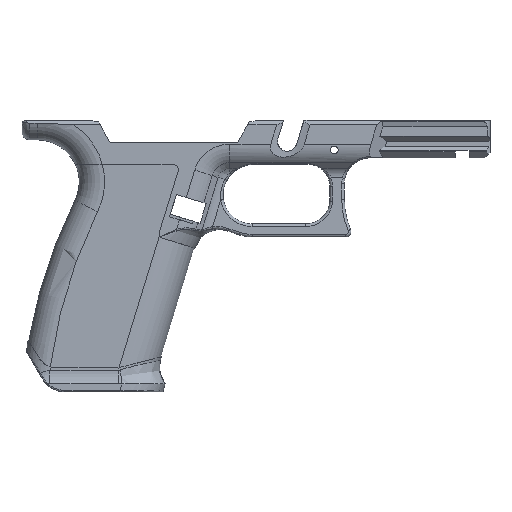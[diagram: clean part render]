
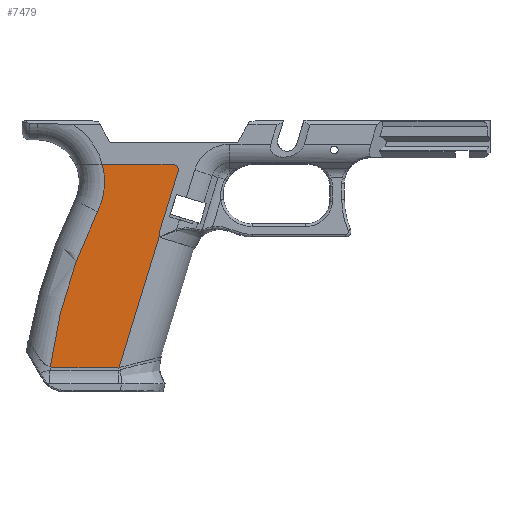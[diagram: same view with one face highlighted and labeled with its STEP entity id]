
A CAD part, front view. The second image highlights one B-rep face of the part: STEP entity #7479.
In plain terms, the highlighted planar face has unit normal (0, -1, 0).
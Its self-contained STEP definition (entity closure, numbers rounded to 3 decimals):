
#448=CIRCLE('',#7990,8.);
#449=CIRCLE('',#7993,8.);
#452=CIRCLE('',#7997,190.);
#501=CIRCLE('',#8114,2.);
#502=CIRCLE('',#8115,26.);
#503=CIRCLE('',#8116,2.);
#1189=FACE_OUTER_BOUND('',#1600,.T.);
#1600=EDGE_LOOP('',(#6547,#6548,#6549,#6550,#6551,#6552,#6553,#6554,#6555,
#6556));
#2048=LINE('',#15206,#2621);
#2171=LINE('',#16655,#2744);
#2173=LINE('',#16662,#2746);
#2174=LINE('',#16666,#2747);
#2621=VECTOR('',#9477,10.);
#2744=VECTOR('',#9842,10.);
#2746=VECTOR('',#9848,10.);
#2747=VECTOR('',#9853,10.);
#3367=VERTEX_POINT('',#15193);
#3368=VERTEX_POINT('',#15201);
#3369=VERTEX_POINT('',#15205);
#3370=VERTEX_POINT('',#15209);
#3372=VERTEX_POINT('',#15221);
#3501=VERTEX_POINT('',#16646);
#3502=VERTEX_POINT('',#16658);
#3503=VERTEX_POINT('',#16659);
#3504=VERTEX_POINT('',#16661);
#3505=VERTEX_POINT('',#16664);
#4359=EDGE_CURVE('',#3368,#3367,#448,.T.);
#4361=EDGE_CURVE('',#3369,#3368,#2048,.T.);
#4363=EDGE_CURVE('',#3370,#3369,#449,.T.);
#4367=EDGE_CURVE('',#3370,#3372,#452,.T.);
#4582=EDGE_CURVE('',#3501,#3367,#2171,.T.);
#4584=EDGE_CURVE('',#3502,#3503,#501,.T.);
#4585=EDGE_CURVE('',#3503,#3504,#2173,.F.);
#4586=EDGE_CURVE('',#3372,#3504,#502,.T.);
#4587=EDGE_CURVE('',#3501,#3505,#503,.T.);
#4588=EDGE_CURVE('',#3505,#3502,#2174,.T.);
#6547=ORIENTED_EDGE('',*,*,#4584,.T.);
#6548=ORIENTED_EDGE('',*,*,#4585,.T.);
#6549=ORIENTED_EDGE('',*,*,#4586,.F.);
#6550=ORIENTED_EDGE('',*,*,#4367,.F.);
#6551=ORIENTED_EDGE('',*,*,#4363,.T.);
#6552=ORIENTED_EDGE('',*,*,#4361,.T.);
#6553=ORIENTED_EDGE('',*,*,#4359,.T.);
#6554=ORIENTED_EDGE('',*,*,#4582,.F.);
#6555=ORIENTED_EDGE('',*,*,#4587,.T.);
#6556=ORIENTED_EDGE('',*,*,#4588,.T.);
#7108=PLANE('',#8113);
#7479=ADVANCED_FACE('',(#1189),#7108,.T.);
#7990=AXIS2_PLACEMENT_3D('',#15202,#9472,#9473);
#7993=AXIS2_PLACEMENT_3D('',#15210,#9481,#9482);
#7997=AXIS2_PLACEMENT_3D('',#15224,#9489,#9490);
#8113=AXIS2_PLACEMENT_3D('',#16657,#9844,#9845);
#8114=AXIS2_PLACEMENT_3D('',#16660,#9846,#9847);
#8115=AXIS2_PLACEMENT_3D('',#16663,#9849,#9850);
#8116=AXIS2_PLACEMENT_3D('',#16665,#9851,#9852);
#9472=DIRECTION('center_axis',(0.,-1.,0.));
#9473=DIRECTION('ref_axis',(0.246,0.,-0.969));
#9477=DIRECTION('',(1.,0.,0.));
#9481=DIRECTION('center_axis',(0.,-1.,0.));
#9482=DIRECTION('ref_axis',(0.,0.,-1.));
#9489=DIRECTION('center_axis',(0.,1.,0.));
#9490=DIRECTION('ref_axis',(-0.959,0.,0.285));
#9842=DIRECTION('',(-0.292,0.,-0.956));
#9844=DIRECTION('center_axis',(0.,-1.,0.));
#9845=DIRECTION('ref_axis',(1.,0.,0.));
#9846=DIRECTION('center_axis',(0.,-1.,0.));
#9847=DIRECTION('ref_axis',(0.804,0.,0.595));
#9848=DIRECTION('',(1.,0.,0.));
#9849=DIRECTION('center_axis',(0.,-1.,0.));
#9850=DIRECTION('ref_axis',(0.978,0.,0.207));
#9851=DIRECTION('center_axis',(0.,1.,0.));
#9852=DIRECTION('ref_axis',(-0.292,0.,-0.956));
#9853=DIRECTION('',(0.292,0.,0.956));
#15193=CARTESIAN_POINT('',(26.239,6.639,-6.374));
#15201=CARTESIAN_POINT('',(24.86,6.639,-6.494));
#15202=CARTESIAN_POINT('Origin',(24.86,6.639,1.506));
#15205=CARTESIAN_POINT('',(2.245,6.639,-6.494));
#15206=CARTESIAN_POINT('',(88.003,6.639,-6.494));
#15209=CARTESIAN_POINT('',(-0.213,6.639,-6.107));
#15210=CARTESIAN_POINT('Origin',(2.245,6.639,1.506));
#15221=CARTESIAN_POINT('',(17.969,6.639,53.669));
#15224=CARTESIAN_POINT('Origin',(188.181,6.639,-30.758));
#16646=CARTESIAN_POINT('',(41.848,6.639,44.68));
#16655=CARTESIAN_POINT('',(43.578,6.639,50.339));
#16657=CARTESIAN_POINT('Origin',(151.146,6.639,41.548));
#16658=CARTESIAN_POINT('',(48.994,6.639,69.303));
#16659=CARTESIAN_POINT('',(47.081,6.639,71.888));
#16660=CARTESIAN_POINT('Origin',(47.081,6.639,69.888));
#16661=CARTESIAN_POINT('',(19.808,6.639,71.888));
#16662=CARTESIAN_POINT('',(73.93,6.639,71.888));
#16663=CARTESIAN_POINT('Origin',(-5.323,6.639,65.222));
#16664=CARTESIAN_POINT('',(41.835,6.639,45.889));
#16665=CARTESIAN_POINT('Origin',(43.748,6.639,45.304));
#16666=CARTESIAN_POINT('',(48.342,6.639,67.171));
